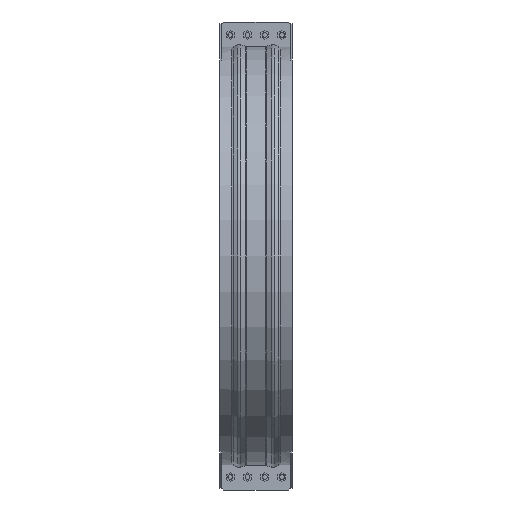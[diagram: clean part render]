
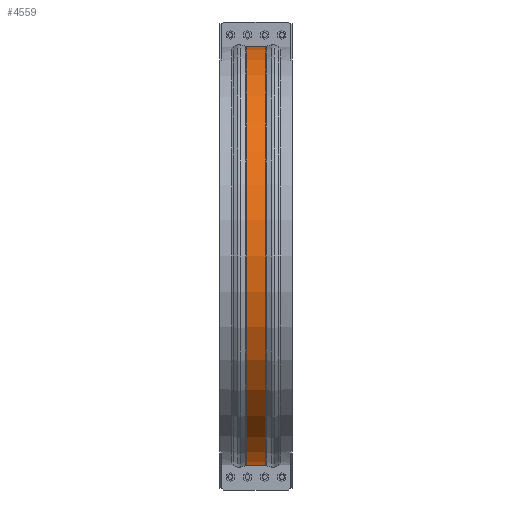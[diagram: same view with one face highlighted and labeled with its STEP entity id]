
A CAD part, front view. The second image highlights one B-rep face of the part: STEP entity #4559.
In plain terms, the highlighted cylindrical face has radius 1082.98 mm (diameter 2165.95 mm), a partial arc.
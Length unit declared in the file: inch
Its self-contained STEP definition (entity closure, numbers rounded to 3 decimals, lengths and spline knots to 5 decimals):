
#414=FACE_OUTER_BOUND('',#671,.T.);
#671=EDGE_LOOP('',(#3465,#3466,#3467,#3468));
#1036=LINE('',#7017,#1485);
#1044=LINE('',#7149,#1493);
#1485=VECTOR('',#5630,0.3937);
#1493=VECTOR('',#5690,0.3937);
#1771=CIRCLE('',#4875,42.63689);
#1773=CIRCLE('',#4879,42.63689);
#2060=VERTEX_POINT('',#7009);
#2061=VERTEX_POINT('',#7016);
#2076=VERTEX_POINT('',#7134);
#2078=VERTEX_POINT('',#7147);
#2565=EDGE_CURVE('',#2061,#2060,#1036,.T.);
#2590=EDGE_CURVE('',#2076,#2061,#1771,.T.);
#2594=EDGE_CURVE('',#2078,#2060,#1773,.T.);
#2595=EDGE_CURVE('',#2078,#2076,#1044,.T.);
#3465=ORIENTED_EDGE('',*,*,#2565,.T.);
#3466=ORIENTED_EDGE('',*,*,#2594,.F.);
#3467=ORIENTED_EDGE('',*,*,#2595,.T.);
#3468=ORIENTED_EDGE('',*,*,#2590,.T.);
#4182=CYLINDRICAL_SURFACE('',#4878,42.63689);
#4559=ADVANCED_FACE('',(#414),#4182,.T.);
#4875=AXIS2_PLACEMENT_3D('',#7135,#5679,#5680);
#4878=AXIS2_PLACEMENT_3D('',#7146,#5686,#5687);
#4879=AXIS2_PLACEMENT_3D('',#7148,#5688,#5689);
#5630=DIRECTION('',(1.,0.,0.));
#5679=DIRECTION('center_axis',(1.,0.,0.));
#5680=DIRECTION('ref_axis',(0.,0.,-1.));
#5686=DIRECTION('center_axis',(1.,0.,0.));
#5687=DIRECTION('ref_axis',(0.,-1.,0.));
#5688=DIRECTION('center_axis',(1.,0.,0.));
#5689=DIRECTION('ref_axis',(0.,0.,-1.));
#5690=DIRECTION('',(-1.,0.,0.));
#7009=CARTESIAN_POINT('',(2.00101,-0.375,-42.63524));
#7016=CARTESIAN_POINT('',(-2.00101,-0.375,-42.63524));
#7017=CARTESIAN_POINT('',(0.,-0.375,-42.63524));
#7134=CARTESIAN_POINT('',(-2.00101,-0.375,42.63524));
#7135=CARTESIAN_POINT('Origin',(-2.00101,0.,0.));
#7146=CARTESIAN_POINT('Origin',(0.,0.,0.));
#7147=CARTESIAN_POINT('',(2.00101,-0.375,42.63524));
#7148=CARTESIAN_POINT('Origin',(2.00101,0.,0.));
#7149=CARTESIAN_POINT('',(0.,-0.375,42.63524));
